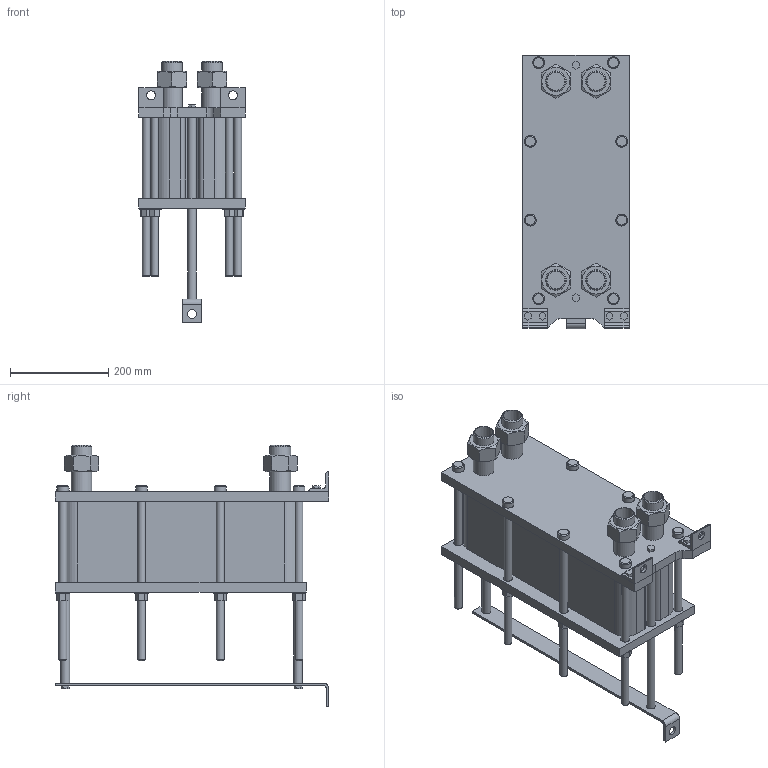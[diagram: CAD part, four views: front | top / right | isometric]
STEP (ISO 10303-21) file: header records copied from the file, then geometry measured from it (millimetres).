
FILE_DESCRIPTION(/* description */ (''),/* implementation_level */ '2;1');
FILE_NAME(/* name */ 'C:\Users\zhuro\Desktop\ENCO\TO\ЭН-004\ЭН-0,5-004-53-1.stp',/* time_stamp */ '2022-06-06T10:47:23+03:00',/* author */ ('zhuro'),/* organization */ (''),/* preprocessor_version */ 'ST-DEVELOPER v18.1',/* originating_system */ 'Autodesk Inventor 2022',/* authorisation */ '');
FILE_SCHEMA (('AUTOMOTIVE_DESIGN { 1 0 10303 214 3 1 1 }'));
Length unit declared in the file: millimetre
Products named in the file (1): ЭН-0,5-004-53-1
Bounding box: 216 x 555 x 531.4 mm (x, y, z)
Volume: 17911402.8 mm3; surface area: 1314694.6 mm2
Topology: 40 solids, 40 shells, 403 faces, 865 edges, 574 vertices
Faces by surface type: plane 272, cylinder 103, cone 28
Full cylindrical faces by diameter (mm): 10 x4, 16 x16, 18 x29, 20 x2, 24 x8, 28 x8, 36.3 x5, 42.3 x9
Entity records: 11137 total; most frequent: CARTESIAN_POINT 1939, DIRECTION 1879, ORIENTED_EDGE 1730, EDGE_CURVE 865, AXIS2_PLACEMENT_3D 658, VERTEX_POINT 574, LINE 563, VECTOR 563
